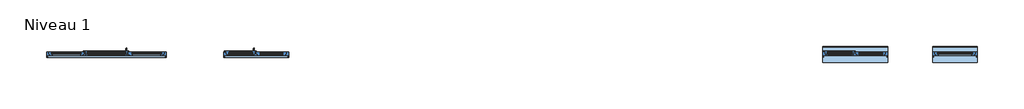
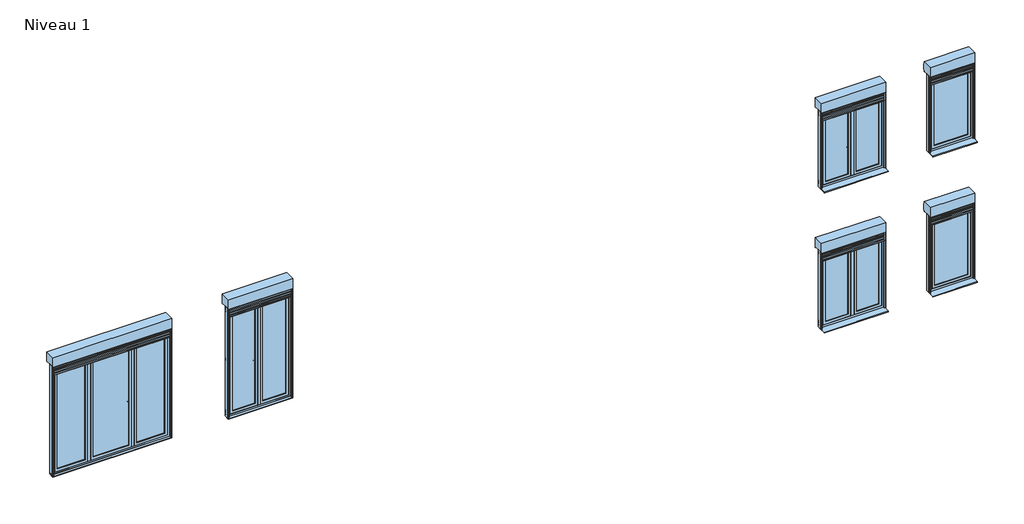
# One storey: 6 windows.
"""IFC4 building model written with IfcOpenShell, lengths in millimetres."""

from ifc_helpers import new_model, si_unit, origin, place, context, project, spatial, transform, mapped, element, save
from components import window_5d41eee4, window_ddca230f, window_10f17370, window_1_of1_enr_pvc_alu_93b9386a, window_2_of2_enr_pvc_alu_a784acc1, window_3_fixe_pvc_f0c6ea6f

model = new_model("IFC4")

# Units and contexts
model_context = context("Model", 3, world=origin())
ifc_project = project(units=[si_unit("LENGTHUNIT", "METRE", prefix="MILLI")], contexts=[model_context])

# Site, building, storey
site = spatial("IfcSite", under=ifc_project)
building = spatial("IfcBuilding", under=site)
storey = spatial("IfcBuildingStorey", under=building, Name="Niveau 1", Elevation=3000.0)

# Windows
placement = place(None, origin())
window_shape = window_5d41eee4(model_context)
element("IfcWindow", 1, ObjectType="5. OF1 + Fixe à G ENR PVC-ALU : 260X165 (LXH) cm", at=placement, inside=storey, context=model_context, shape_type="MappedRepresentation", body=[
    mapped(window_shape, transform((-6169.1701575, 165.9072991, 2910.0), x_axis=(-1.0, 0.0, 0.0), y_axis=(0.0, -1.0, 0.0), z_axis=(0.0, 0.0, 1.0))),
])
window_2_shape = window_ddca230f(model_context)
element("IfcWindow", 2, ObjectType="23. PF1 + Fixe à G ENR PVC-ALU : 260X236 (LXH) cm", at=placement, inside=storey, context=model_context, shape_type="MappedRepresentation", body=[
    mapped(window_2_shape, transform((-18169.1701575, 165.9072991, 3000.0), x_axis=(-1.0, 0.0, 0.0), y_axis=(0.0, -1.0, 0.0), z_axis=(0.0, 0.0, 1.0))),
])
window_3_shape = window_10f17370(model_context)
element("IfcWindow", 3, ObjectType="25. PF1 + Fixe à G et à D ENR PVC-ALU : PF3  260X236 (LXH) cm", at=placement, inside=storey, context=model_context, shape_type="MappedRepresentation", body=[
    mapped(window_3_shape, transform((-21169.1701575, 165.9072991, 3000.0), x_axis=(-1.0, 0.0, 0.0), y_axis=(0.0, -1.0, 0.0), z_axis=(0.0, 0.0, 1.0))),
])
window_1_of1_enr_pvc_alu_shape = window_1_of1_enr_pvc_alu_93b9386a(model_context)
element("IfcWindow", 4, ObjectType="1. OF1 ENR PVC-ALU : 130X165 (LXH) cm", at=placement, inside=storey, context=model_context, shape_type="MappedRepresentation", body=[
    mapped(window_1_of1_enr_pvc_alu_shape, transform((-4169.1701575, 165.9072991, -90.0), x_axis=(-1.0, 0.0, 0.0), y_axis=(0.0, -1.0, 0.0), z_axis=(0.0, 0.0, 1.0))),
])
window_2_of2_enr_pvc_alu_shape = window_2_of2_enr_pvc_alu_a784acc1(model_context)
element("IfcWindow", 5, ObjectType="2. OF2 ENR PVC-ALU : 130X165 (LXH) cm", at=placement, inside=storey, context=model_context, shape_type="MappedRepresentation", body=[
    mapped(window_2_of2_enr_pvc_alu_shape, transform((-6169.1701575, 165.9072991, -90.0), x_axis=(-1.0, 0.0, 0.0), y_axis=(0.0, -1.0, 0.0), z_axis=(0.0, 0.0, 1.0))),
])
window_3_fixe_pvc_shape = window_3_fixe_pvc_f0c6ea6f(model_context)
element("IfcWindow", 6, ObjectType="3. Fixe PVC : 90X165 (LXH) cm", at=placement, inside=storey, context=model_context, shape_type="MappedRepresentation", body=[
    mapped(window_3_fixe_pvc_shape, transform((-4169.1701575, 165.9072991, 2910.0), x_axis=(-1.0, 0.0, 0.0), y_axis=(0.0, -1.0, 0.0), z_axis=(0.0, 0.0, 1.0))),
])

save(model, "model.ifc")
